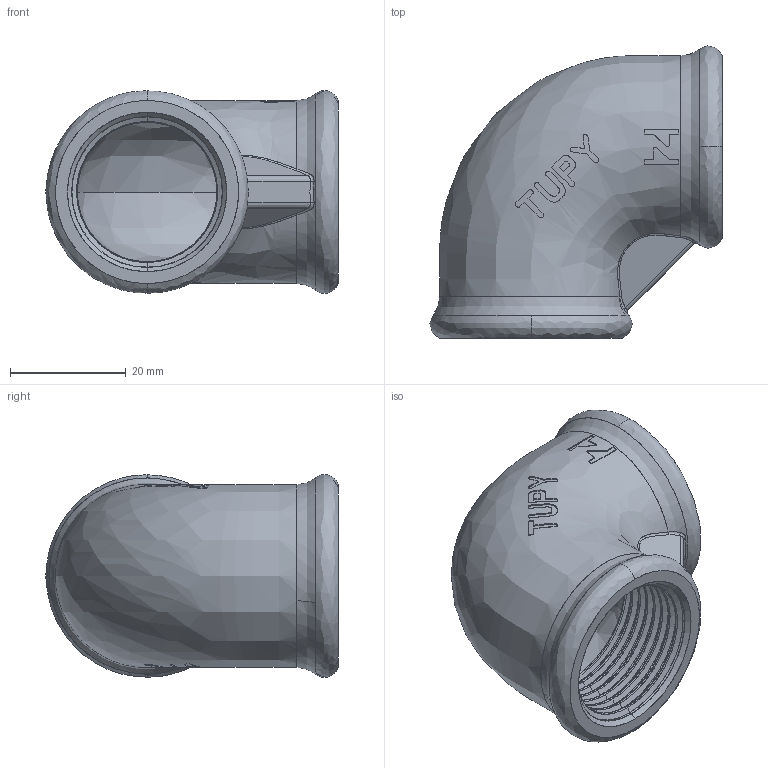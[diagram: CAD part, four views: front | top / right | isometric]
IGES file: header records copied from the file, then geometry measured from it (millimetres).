
Start section: SolidWorks IGES file using analytic representation for surfaces
Global section: file name: C:\Users\Joel Rosa\Desktop\Tubulação\12-07-OK\12-07-006.IGS; native system: SolidWorks 2011; preprocessor: SolidWorks 2011; author: Joel Rosa; date: 121204.003620; units: millimetre
Bounding box: 50.49 x 50.49 x 35 mm (x, y, z)
Surface area: 12839.4 mm2 (no closed solid volume)
Topology: 0 solids, 0 shells, 316 faces, 3234 edges, 3234 vertices
Faces by surface type: bspline 240, revolution 76
